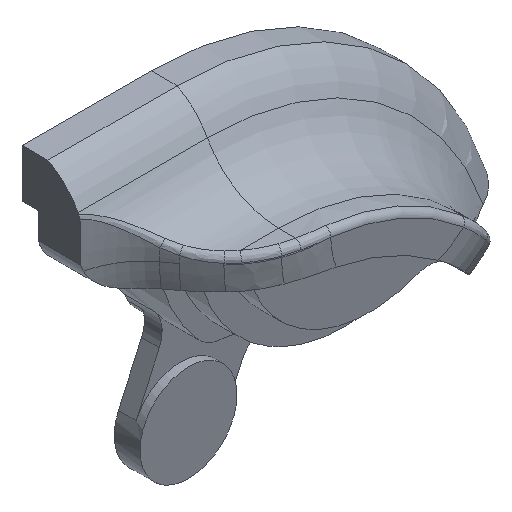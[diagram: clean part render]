
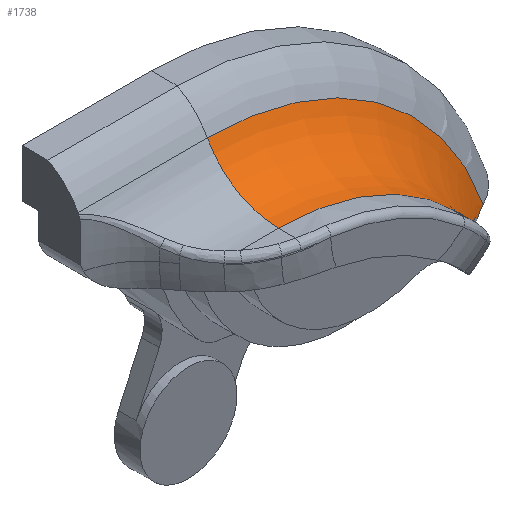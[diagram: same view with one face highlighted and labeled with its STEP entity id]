
A CAD part, isometric view. The second image highlights one B-rep face of the part: STEP entity #1738.
In plain terms, the highlighted toroidal (fillet/blend) face has major radius 20.469 mm and minor radius 5 mm.
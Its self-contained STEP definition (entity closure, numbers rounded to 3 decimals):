
#17=TOROIDAL_SURFACE('',#1921,20.469,5.);
#355=FACE_OUTER_BOUND('',#455,.T.);
#455=EDGE_LOOP('',(#1401,#1402,#1403,#1404,#1405,#1406,#1407,#1408));
#516=B_SPLINE_CURVE_WITH_KNOTS('',3,(#2823,#2824,#2825,#2826,#2827,#2828),
 .UNSPECIFIED.,.F.,.F.,(4,2,4),(0.998,1.05,1.089),
 .UNSPECIFIED.);
#541=B_SPLINE_CURVE_WITH_KNOTS('',3,(#3512,#3513,#3514,#3515,#3516,#3517,
#3518),.UNSPECIFIED.,.F.,.F.,(4,3,4),(0.,0.,0.001),
 .UNSPECIFIED.);
#542=B_SPLINE_CURVE_WITH_KNOTS('',3,(#3520,#3521,#3522,#3523,#3524,#3525,
#3526,#3527,#3528,#3529,#3530,#3531,#3532),.UNSPECIFIED.,.F.,.F.,(4,3,3,
3,4),(0.,0.,0.001,0.001,0.002),
 .UNSPECIFIED.);
#543=B_SPLINE_CURVE_WITH_KNOTS('',3,(#3534,#3535,#3536,#3537,#3538,#3539,
#3540,#3541,#3542,#3543),.UNSPECIFIED.,.F.,.F.,(4,3,3,4),(0.,0.,
0.001,0.001),.UNSPECIFIED.);
#544=B_SPLINE_CURVE_WITH_KNOTS('',3,(#3544,#3545,#3546,#3547,#3548,#3549),
 .UNSPECIFIED.,.F.,.F.,(4,2,4),(0.,0.001,0.003),
 .UNSPECIFIED.);
#634=CIRCLE('',#1920,18.111);
#635=CIRCLE('',#1922,5.);
#636=CIRCLE('',#1923,15.469);
#731=VERTEX_POINT('',#2813);
#732=VERTEX_POINT('',#2822);
#794=VERTEX_POINT('',#3492);
#796=VERTEX_POINT('',#3507);
#797=VERTEX_POINT('',#3509);
#798=VERTEX_POINT('',#3511);
#799=VERTEX_POINT('',#3519);
#800=VERTEX_POINT('',#3533);
#915=EDGE_CURVE('',#731,#732,#516,.T.);
#1018=EDGE_CURVE('',#794,#731,#634,.T.);
#1021=EDGE_CURVE('',#796,#794,#635,.T.);
#1022=EDGE_CURVE('',#796,#797,#636,.T.);
#1023=EDGE_CURVE('',#798,#797,#541,.T.);
#1024=EDGE_CURVE('',#799,#798,#542,.T.);
#1025=EDGE_CURVE('',#800,#799,#543,.T.);
#1026=EDGE_CURVE('',#732,#800,#544,.T.);
#1401=ORIENTED_EDGE('',*,*,#915,.F.);
#1402=ORIENTED_EDGE('',*,*,#1018,.F.);
#1403=ORIENTED_EDGE('',*,*,#1021,.F.);
#1404=ORIENTED_EDGE('',*,*,#1022,.T.);
#1405=ORIENTED_EDGE('',*,*,#1023,.F.);
#1406=ORIENTED_EDGE('',*,*,#1024,.F.);
#1407=ORIENTED_EDGE('',*,*,#1025,.F.);
#1408=ORIENTED_EDGE('',*,*,#1026,.F.);
#1738=ADVANCED_FACE('',(#355),#17,.F.);
#1920=AXIS2_PLACEMENT_3D('',#3494,#2290,#2291);
#1921=AXIS2_PLACEMENT_3D('',#3506,#2292,#2293);
#1922=AXIS2_PLACEMENT_3D('',#3508,#2294,#2295);
#1923=AXIS2_PLACEMENT_3D('',#3510,#2296,#2297);
#2290=DIRECTION('center_axis',(0.,1.,0.));
#2291=DIRECTION('ref_axis',(0.,0.,1.));
#2292=DIRECTION('center_axis',(0.,-1.,0.));
#2293=DIRECTION('ref_axis',(0.,0.,1.));
#2294=DIRECTION('center_axis',(1.,0.,0.));
#2295=DIRECTION('ref_axis',(0.,0.,-1.));
#2296=DIRECTION('center_axis',(0.,1.,0.));
#2297=DIRECTION('ref_axis',(0.,0.,1.));
#2813=CARTESIAN_POINT('',(25.589,6.031,1.5));
#2822=CARTESIAN_POINT('',(24.752,5.51,1.5));
#2823=CARTESIAN_POINT('Ctrl Pts',(25.589,6.031,1.5));
#2824=CARTESIAN_POINT('Ctrl Pts',(25.425,5.949,1.5));
#2825=CARTESIAN_POINT('Ctrl Pts',(25.261,5.856,1.5));
#2826=CARTESIAN_POINT('Ctrl Pts',(24.983,5.677,1.5));
#2827=CARTESIAN_POINT('Ctrl Pts',(24.865,5.595,1.5));
#2828=CARTESIAN_POINT('Ctrl Pts',(24.752,5.51,1.5));
#3492=CARTESIAN_POINT('',(8.5,6.031,13.611));
#3494=CARTESIAN_POINT('Origin',(8.5,6.031,-4.5));
#3506=CARTESIAN_POINT('Origin',(8.5,1.622,-4.5));
#3507=CARTESIAN_POINT('',(8.5,1.622,10.969));
#3508=CARTESIAN_POINT('Origin',(8.5,1.622,15.969));
#3509=CARTESIAN_POINT('',(21.313,1.622,4.166));
#3510=CARTESIAN_POINT('Origin',(8.5,1.622,-4.5));
#3511=CARTESIAN_POINT('',(21.634,2.052,3.707));
#3512=CARTESIAN_POINT('Ctrl Pts',(21.634,2.052,3.707));
#3513=CARTESIAN_POINT('Ctrl Pts',(21.573,1.961,3.79));
#3514=CARTESIAN_POINT('Ctrl Pts',(21.511,1.875,3.878));
#3515=CARTESIAN_POINT('Ctrl Pts',(21.448,1.792,3.968));
#3516=CARTESIAN_POINT('Ctrl Pts',(21.404,1.733,4.033));
#3517=CARTESIAN_POINT('Ctrl Pts',(21.359,1.677,4.099));
#3518=CARTESIAN_POINT('Ctrl Pts',(21.313,1.622,4.166));
#3519=CARTESIAN_POINT('',(22.512,3.366,2.763));
#3520=CARTESIAN_POINT('Ctrl Pts',(22.512,3.366,2.763));
#3521=CARTESIAN_POINT('Ctrl Pts',(22.432,3.248,2.824));
#3522=CARTESIAN_POINT('Ctrl Pts',(22.354,3.133,2.89));
#3523=CARTESIAN_POINT('Ctrl Pts',(22.278,3.02,2.96));
#3524=CARTESIAN_POINT('Ctrl Pts',(22.2,2.904,3.032));
#3525=CARTESIAN_POINT('Ctrl Pts',(22.125,2.791,3.109));
#3526=CARTESIAN_POINT('Ctrl Pts',(22.051,2.679,3.19));
#3527=CARTESIAN_POINT('Ctrl Pts',(21.973,2.56,3.277));
#3528=CARTESIAN_POINT('Ctrl Pts',(21.896,2.444,3.368));
#3529=CARTESIAN_POINT('Ctrl Pts',(21.82,2.33,3.464));
#3530=CARTESIAN_POINT('Ctrl Pts',(21.757,2.236,3.542));
#3531=CARTESIAN_POINT('Ctrl Pts',(21.695,2.143,3.623));
#3532=CARTESIAN_POINT('Ctrl Pts',(21.634,2.052,3.707));
#3533=CARTESIAN_POINT('',(22.971,4.003,2.493));
#3534=CARTESIAN_POINT('Ctrl Pts',(22.971,4.003,2.493));
#3535=CARTESIAN_POINT('Ctrl Pts',(22.903,3.914,2.522));
#3536=CARTESIAN_POINT('Ctrl Pts',(22.837,3.825,2.555));
#3537=CARTESIAN_POINT('Ctrl Pts',(22.773,3.736,2.591));
#3538=CARTESIAN_POINT('Ctrl Pts',(22.707,3.644,2.629));
#3539=CARTESIAN_POINT('Ctrl Pts',(22.642,3.553,2.67));
#3540=CARTESIAN_POINT('Ctrl Pts',(22.579,3.463,2.714));
#3541=CARTESIAN_POINT('Ctrl Pts',(22.557,3.43,2.73));
#3542=CARTESIAN_POINT('Ctrl Pts',(22.534,3.398,2.746));
#3543=CARTESIAN_POINT('Ctrl Pts',(22.512,3.366,2.763));
#3544=CARTESIAN_POINT('Ctrl Pts',(24.752,5.51,1.5));
#3545=CARTESIAN_POINT('Ctrl Pts',(24.438,5.338,1.739));
#3546=CARTESIAN_POINT('Ctrl Pts',(24.113,5.124,1.934));
#3547=CARTESIAN_POINT('Ctrl Pts',(23.508,4.623,2.256));
#3548=CARTESIAN_POINT('Ctrl Pts',(23.223,4.336,2.385));
#3549=CARTESIAN_POINT('Ctrl Pts',(22.971,4.003,2.493));
